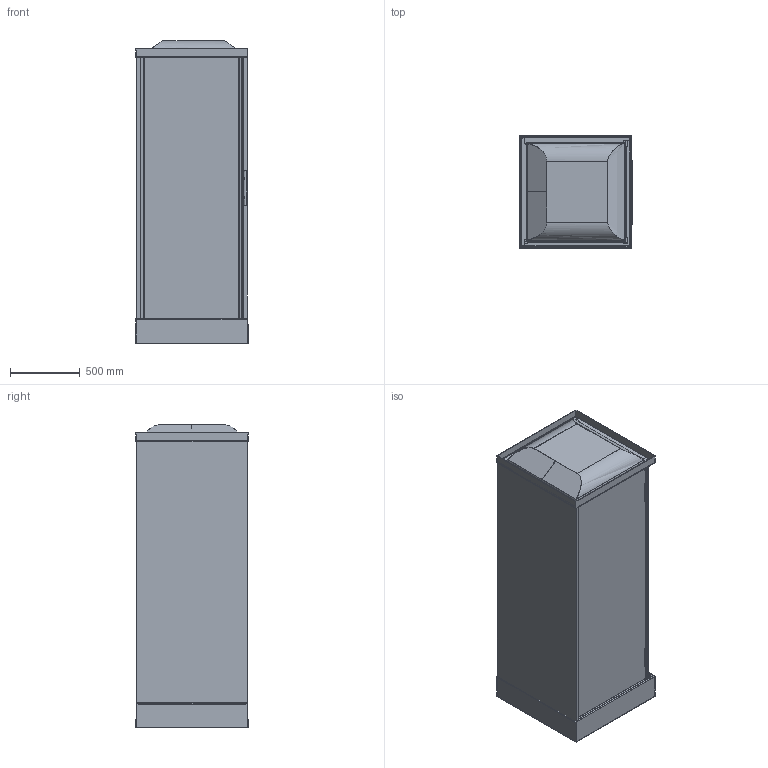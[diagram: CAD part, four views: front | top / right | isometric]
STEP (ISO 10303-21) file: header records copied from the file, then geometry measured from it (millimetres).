
FILE_DESCRIPTION(('STEP AP203'),'2;1');
FILE_NAME('NNH GF 80 T T.stp','2015-09-04T15:37:33',(''),(''),'2014.1.117','THINKDESIGN','');
FILE_SCHEMA(('CONFIG_CONTROL_DESIGN'));
Length unit declared in the file: millimetre
Products named in the file (1): top
Bounding box: 807.53 x 804.03 x 2170 mm (x, y, z)
Volume: 177414765.9 mm3; surface area: 18232113.7 mm2
Topology: 29 solids, 29 shells, 666 faces, 1668 edges, 1062 vertices
Faces by surface type: bspline 349, plane 248, cylinder 69
Entity records: 71589 total; most frequent: CARTESIAN_POINT 58176, ORIENTED_EDGE 3306, DIRECTION 1728, EDGE_CURVE 1653, VERTEX_POINT 1062, VECTOR 764, LINE 764, EDGE_LOOP 685
